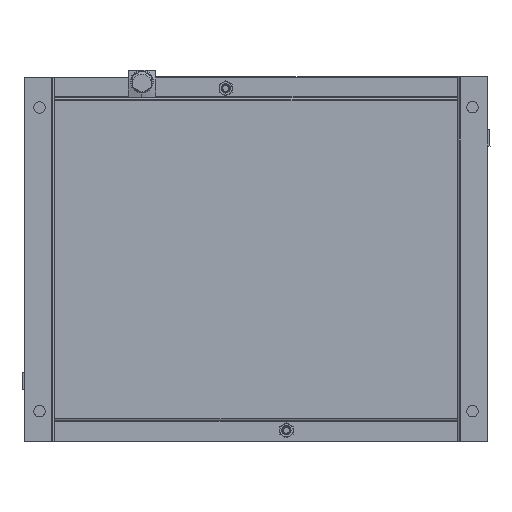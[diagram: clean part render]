
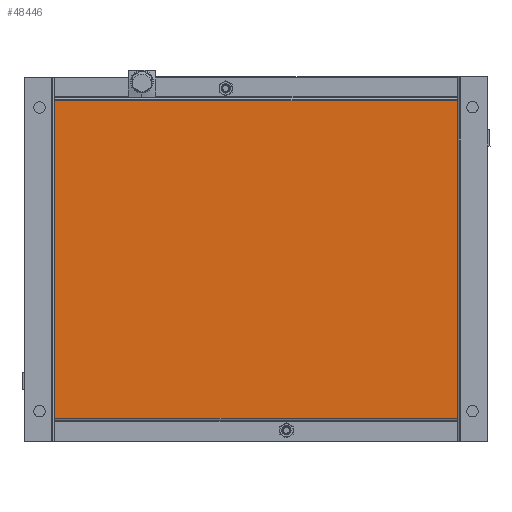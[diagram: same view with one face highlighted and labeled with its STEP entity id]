
A CAD part, front view. The second image highlights one B-rep face of the part: STEP entity #48446.
In plain terms, the highlighted planar face has unit normal (0, -1, 0).
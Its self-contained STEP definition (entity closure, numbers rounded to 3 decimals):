
#48030=DIRECTION('',(0.,0.,-1.));
#48031=VECTOR('',#48030,10.46);
#48032=CARTESIAN_POINT('',(4.87,-12.76,6.36));
#48033=LINE('',#48032,#48031);
#48034=DIRECTION('',(-1.,0.,0.));
#48035=VECTOR('',#48034,13.25);
#48036=CARTESIAN_POINT('',(4.874,-12.76,-4.1));
#48037=LINE('',#48036,#48035);
#48038=DIRECTION('',(0.,0.,1.));
#48039=VECTOR('',#48038,10.46);
#48040=CARTESIAN_POINT('',(-8.376,-12.76,-4.105));
#48041=LINE('',#48040,#48039);
#48047=DIRECTION('',(-1.,0.,0.));
#48048=VECTOR('',#48047,13.25);
#48049=CARTESIAN_POINT('',(4.87,-12.76,6.36));
#48050=LINE('',#48049,#48048);
#48256=CARTESIAN_POINT('',(4.874,-12.76,-4.1));
#48257=VERTEX_POINT('',#48256);
#48258=CARTESIAN_POINT('',(4.87,-12.76,6.36));
#48259=VERTEX_POINT('',#48258);
#48296=CARTESIAN_POINT('',(-8.376,-12.76,-4.105));
#48297=VERTEX_POINT('',#48296);
#48298=CARTESIAN_POINT('',(-8.38,-12.76,6.355));
#48299=VERTEX_POINT('',#48298);
#48432=CARTESIAN_POINT('',(4.874,-12.76,-4.1));
#48433=DIRECTION('',(0.,-1.,0.));
#48434=DIRECTION('',(0.,0.,1.));
#48435=AXIS2_PLACEMENT_3D('',#48432,#48433,#48434);
#48436=PLANE('',#48435);
#48438=ORIENTED_EDGE('',*,*,#48437,.T.);
#48439=ORIENTED_EDGE('',*,*,#48427,.T.);
#48441=ORIENTED_EDGE('',*,*,#48440,.T.);
#48443=ORIENTED_EDGE('',*,*,#48442,.F.);
#48444=EDGE_LOOP('',(#48438,#48439,#48441,#48443));
#48445=FACE_OUTER_BOUND('',#48444,.F.);
#48446=ADVANCED_FACE('',(#48445),#48436,.T.);
#48427=EDGE_CURVE('',#48257,#48297,#48037,.T.);
#48437=EDGE_CURVE('',#48259,#48257,#48033,.T.);
#48440=EDGE_CURVE('',#48297,#48299,#48041,.T.);
#48442=EDGE_CURVE('',#48259,#48299,#48050,.T.);
